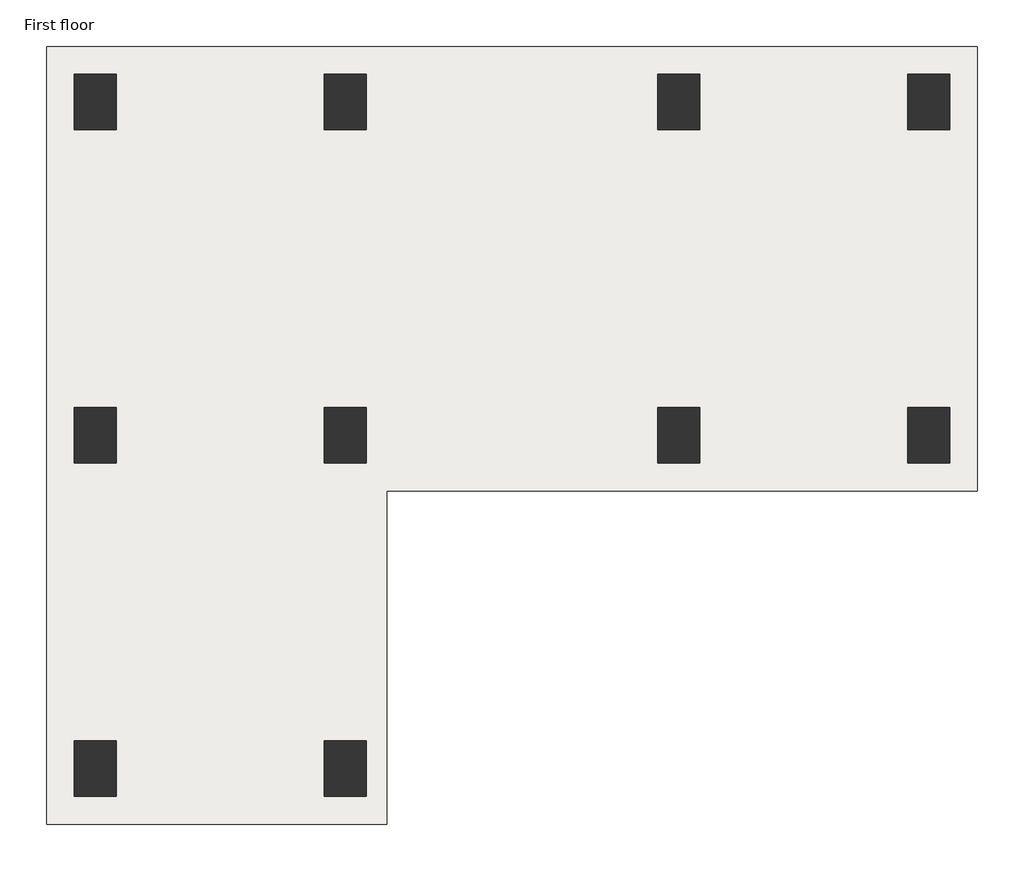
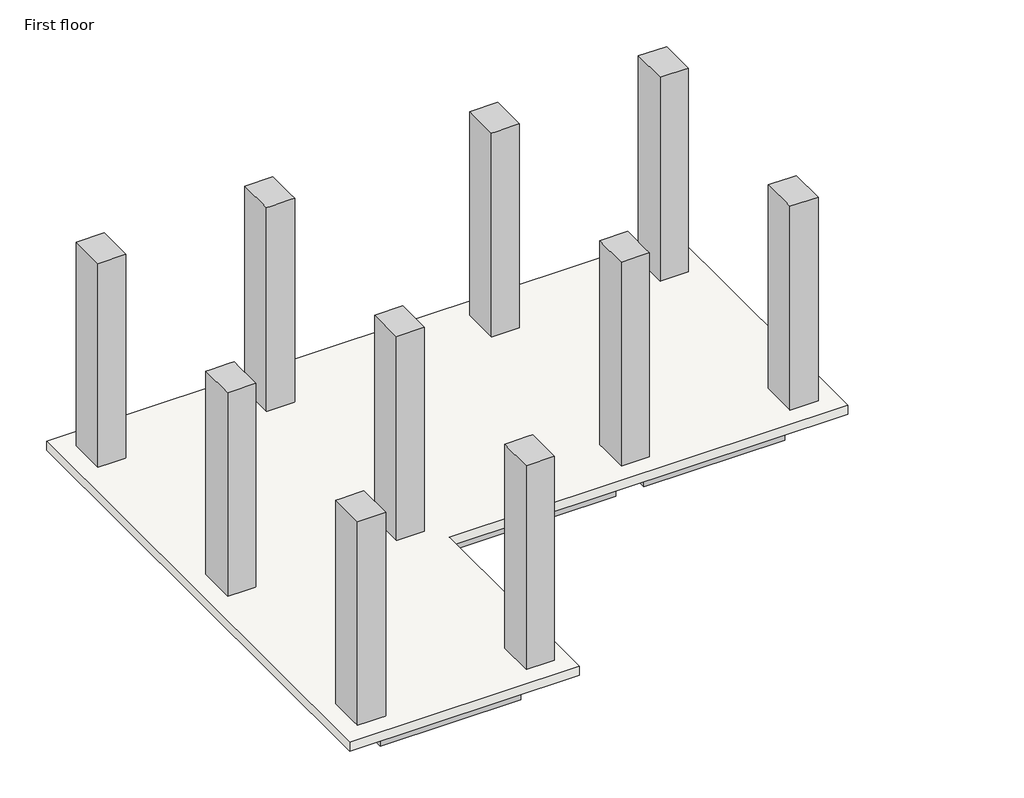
# One storey: 13 beams, 10 columns, 1 slab.
"""IFC4 building model written with IfcOpenShell, lengths in millimetres."""

import ifcopenshell
import ifcopenshell.guid

model = None  # the IFC model being written
_history = None  # IfcOwnerHistory: only IFC2X3 demands one
_inside = {}  # id of a spatial element -> (the spatial element, [elements in it])
_under = {}  # id of a project, library or spatial element -> (it, [spatial elements below it])
_declared = {}  # id of a project -> (the project, [libraries it declares])
_typed = {}  # id of a type object -> (the type object, [elements of that type])
_made_of = {}  # id of a material, layer set ... -> (it, [elements and type objects made of it])


def new_model(schema):
    """Start an empty IFC model of exactly this schema.

    Asked for "IFC4X3", IfcOpenShell would pick the latest addendum, in which some entities
    have other attributes; the version numbers below select the first issue.
    IFC2X3 requires an IfcOwnerHistory on every rooted entity: one is made here for all.
    """
    global model, _history
    if schema == "IFC4X3":
        model = ifcopenshell.file(schema_version=(4, 3, 0, 0))
    else:
        model = ifcopenshell.file(schema=schema)
    _inside.clear()
    _under.clear()
    _declared.clear()
    _typed.clear()
    _made_of.clear()
    _history = None
    if model.schema == "IFC2X3":
        org = make("IfcOrganization", Name="unknown")
        user = make(
            "IfcPersonAndOrganization",
            ThePerson=make("IfcPerson", FamilyName="unknown"),
            TheOrganization=org,
        )
        app = make(
            "IfcApplication",
            ApplicationDeveloper=org,
            Version="unknown",
            ApplicationFullName="unknown",
            ApplicationIdentifier="unknown",
        )
        _history = make(
            "IfcOwnerHistory",
            OwningUser=user,
            OwningApplication=app,
            ChangeAction="ADDED",
            CreationDate=0,
        )
    return model


def make(cls, **values):
    """One entity of the class cls with the attributes given. An attribute that is None is left unset."""
    return model.create_entity(
        cls, **{name: value for name, value in values.items() if value is not None}
    )


def rooted(cls, **values):
    """An entity with a GlobalId (a new one), such as an element, a storey or a relation."""
    return make(cls, GlobalId=ifcopenshell.guid.new(), OwnerHistory=_history, **values)


def si_unit(unit_type, name, prefix=None):
    """IfcSIUnit, for example si_unit("LENGTHUNIT", "METRE", prefix="MILLI")."""
    return make("IfcSIUnit", UnitType=unit_type, Prefix=prefix, Name=name)


def assignment(units):
    """IfcUnitAssignment: the units of a project."""
    return None if units is None else make("IfcUnitAssignment", Units=units)


def point(xyz):
    """IfcCartesianPoint."""
    return None if xyz is None else make("IfcCartesianPoint", Coordinates=xyz)


def direction(xyz):
    """IfcDirection."""
    return None if xyz is None else make("IfcDirection", DirectionRatios=xyz)


def frame(location, z_axis=None, x_axis=None):
    """IfcAxis2Placement3D, a coordinate frame: its origin and axes. An axis left out is left unset."""
    return make(
        "IfcAxis2Placement3D",
        Location=point(location),
        Axis=direction(z_axis),
        RefDirection=direction(x_axis),
    )


def origin():
    """The frame at (0, 0, 0) with its axes left unset."""
    return frame((0.0, 0.0, 0.0))


def place(relative_to, where):
    """IfcLocalPlacement: puts the frame where relative to a parent placement (None: the world)."""
    return make(
        "IfcLocalPlacement", PlacementRelTo=relative_to, RelativePlacement=where
    )


def context(
    kind, dimensions, precision=None, world=None, true_north=None, identifier=None
):
    """IfcGeometricRepresentationContext, for example the 3D "Model" context."""
    return make(
        "IfcGeometricRepresentationContext",
        ContextIdentifier=identifier,
        ContextType=kind,
        CoordinateSpaceDimension=dimensions,
        Precision=precision,
        WorldCoordinateSystem=world,
        TrueNorth=true_north,
    )


def project(units=None, contexts=None):
    """IfcProject with its units and contexts."""
    return rooted(
        "IfcProject",
        Name="project",
        RepresentationContexts=contexts,
        UnitsInContext=assignment(units),
    )


def spatial(cls, under=None, at=None, **own):
    """A site, building, storey or space (cls), placed at a placement, below another one or the project."""
    s = rooted(cls, ObjectPlacement=at, **own)
    if under is not None:
        _under.setdefault(under.id(), (under, []))[1].append(s)
    return s


def polyline(points):
    """IfcPolyline through the points."""
    return make("IfcPolyline", Points=[point(p) for p in points])


def outline(outer, holes=None, kind="AREA"):
    """IfcArbitraryClosedProfileDef: a profile drawn as a closed curve; with holes, ...WithVoids."""
    if holes is None:
        return make("IfcArbitraryClosedProfileDef", ProfileType=kind, OuterCurve=outer)
    return make(
        "IfcArbitraryProfileDefWithVoids",
        ProfileType=kind,
        OuterCurve=outer,
        InnerCurves=holes,
    )


def extrude(swept, where, along, depth):
    """IfcExtrudedAreaSolid: the profile swept, set in the frame where, extruded along a direction by depth."""
    return make(
        "IfcExtrudedAreaSolid",
        SweptArea=swept,
        Position=where,
        ExtrudedDirection=direction(along),
        Depth=depth,
    )


def faces_of(points, faces, orient=None, outer=None):
    """IfcFace entities. A face is a list of loops; a loop is a list of indices into points, from 0.

    orient and outer hold one flag for each loop. By default every Orientation is true, the
    first loop of a face is its IfcFaceOuterBound and the others are IfcFaceBound.
    """
    made = []
    for i, loops in enumerate(faces):
        bounds = []
        for j, loop in enumerate(loops):
            is_outer = j == 0 if outer is None else outer[i][j]
            bounds.append(
                make(
                    "IfcFaceOuterBound" if is_outer else "IfcFaceBound",
                    Bound=make("IfcPolyLoop", Polygon=[points[k] for k in loop]),
                    Orientation=True if orient is None else orient[i][j],
                )
            )
        made.append(make("IfcFace", Bounds=bounds))
    return made


def faceted_brep(points, faces, orient=None, outer=None, voids=None):
    """IfcFacetedBrep: a solid bounded by flat faces; with voids (closed shells), ...WithVoids."""
    shared = [point(p) for p in points]
    hull = make("IfcClosedShell", CfsFaces=faces_of(shared, faces, orient, outer))
    if voids is None:
        return make("IfcFacetedBrep", Outer=hull)
    return make(
        "IfcFacetedBrepWithVoids",
        Outer=hull,
        Voids=[
            make(cls, CfsFaces=faces_of(shared, fs, o, b)) for cls, fs, o, b in voids
        ],
    )


def shape(context_of_items, identifier, shape_type, items):
    """IfcShapeRepresentation: the items that make up one representation, for example the "Body"."""
    return make(
        "IfcShapeRepresentation",
        ContextOfItems=context_of_items,
        RepresentationIdentifier=identifier,
        RepresentationType=shape_type,
        Items=items,
    )


def made_of(thing, what):
    """Note that an element or type object is made of a material, layer set ...; save() writes the relation."""
    if what is not None:
        _made_of.setdefault(what.id(), (what, []))[1].append(thing)
    return thing


def element(
    cls,
    number,
    at=None,
    inside=None,
    cuts=None,
    type_object=None,
    material=None,
    context=None,
    identifier="Body",
    shape_type=None,
    held_by="IfcProductDefinitionShape",
    body=None,
    shapes=None,
    **own,
):
    """One element of the class cls, such as IfcWall. Its Tag is "e" and its number.

    at: its placement. inside: the storey or other place that contains it. cuts: it is an
    opening in that element (IfcRelVoidsElement). A single representation is given by context,
    identifier, shape_type and body (its items); several are given by shapes. held_by: the class
    of the entity that holds the representations. save() writes the other relations.
    """
    e = rooted(cls, Tag="e%d" % number, ObjectPlacement=at, **own)
    if body is not None:
        shapes = [shape(context, identifier, shape_type, body)]
    if shapes is not None:
        e.Representation = make(held_by, Representations=shapes)
    if inside is not None:
        _inside.setdefault(inside.id(), (inside, []))[1].append(e)
    if cuts is not None:
        rooted(
            "IfcRelVoidsElement", RelatingBuildingElement=cuts, RelatedOpeningElement=e
        )
    if type_object is not None:
        _typed.setdefault(type_object.id(), (type_object, []))[1].append(e)
    return made_of(e, material)


def aggregate(whole, parts):
    """IfcRelAggregates: a whole, such as a stair, and the parts it consists of."""
    return rooted("IfcRelAggregates", RelatingObject=whole, RelatedObjects=parts)


def save(model, path):
    """Write the relations noted so far, then the file.

    IfcRelAggregates (storeys below a building ...), IfcRelContainedInSpatialStructure (elements
    in a storey), IfcRelDefinesByType, IfcRelAssociatesMaterial and IfcRelDeclares: one each for
    every whole, place, type object, material and project.
    """
    for whole, parts in _under.values():
        aggregate(whole, parts)
    for where, things in _inside.values():
        rooted(
            "IfcRelContainedInSpatialStructure",
            RelatedElements=things,
            RelatingStructure=where,
        )
    for kind, things in _typed.values():
        rooted("IfcRelDefinesByType", RelatedObjects=things, RelatingType=kind)
    for what, things in _made_of.values():
        rooted("IfcRelAssociatesMaterial", RelatedObjects=things, RelatingMaterial=what)
    for by, libraries in _declared.values():
        rooted("IfcRelDeclares", RelatingContext=by, RelatedDefinitions=libraries)
    model.write(path)


model = new_model("IFC4")

# Units and contexts
model_context = context("Model", 3, world=origin())
ifc_project = project(units=[si_unit("LENGTHUNIT", "METRE", prefix="MILLI")], contexts=[model_context])

# Site, building, storey
site = spatial("IfcSite", under=ifc_project)
building = spatial("IfcBuilding", under=site)
storey = spatial("IfcBuildingStorey", under=building, Name="First floor", Elevation=6096.0)

# Beams
placement = place(None, origin())
element("IfcBeam", 1, ObjectType="Concrete-Rectangular Beam : 12 x 24", at=placement, inside=storey, context=model_context, shape_type="SweptSolid", body=[
    extrude(outline(polyline([(-23084.018666, 8390.6753347), (-23084.018666, 8695.4753347), (-20798.018666, 8695.4753347), (-20798.018666, 8390.6753347), (-23084.018666, 8390.6753347)])), frame((0.0, 0.0, 5486.4), z_axis=(0.0, 0.0, 1.0), x_axis=(1.0, 0.0, 0.0)), (0.0, 0.0, 1.0), 457.2),
])
element("IfcBeam", 2, ObjectType="Concrete-Rectangular Beam : 12 x 24", at=placement, inside=storey, context=model_context, shape_type="SweptSolid", body=[
    extrude(outline(polyline([(-20721.818666, 11895.8753347), (-20417.018666, 11895.8753347), (-20417.018666, 8847.8753347), (-20721.818666, 8847.8753347), (-20721.818666, 11895.8753347)])), frame((0.0, 0.0, 5486.4), z_axis=(0.0, 0.0, 1.0), x_axis=(1.0, 0.0, 0.0)), (0.0, 0.0, 1.0), 457.2),
])
element("IfcBeam", 3, ObjectType="Concrete-Rectangular Beam : 12 x 24", at=placement, inside=storey, context=model_context, shape_type="SweptSolid", body=[
    extrude(outline(polyline([(-23465.018666, 11895.8753347), (-23160.218666, 11895.8753347), (-23160.218666, 8847.8753347), (-23465.018666, 8847.8753347), (-23465.018666, 11895.8753347)])), frame((0.0, 0.0, 5486.4), z_axis=(0.0, 0.0, 1.0), x_axis=(1.0, 0.0, 0.0)), (0.0, 0.0, 1.0), 457.2),
])
element("IfcBeam", 4, ObjectType="Concrete-Rectangular Beam : 12 x 24", at=placement, inside=storey, context=model_context, shape_type="SweptSolid", body=[
    extrude(outline(polyline([(-23465.018666, 15553.4753347), (-23160.218666, 15553.4753347), (-23160.218666, 12505.4753347), (-23465.018666, 12505.4753347), (-23465.018666, 15553.4753347)])), frame((0.0, 0.0, 5486.4), z_axis=(0.0, 0.0, 1.0), x_axis=(1.0, 0.0, 0.0)), (0.0, 0.0, 1.0), 457.2),
])
element("IfcBeam", 5, ObjectType="Concrete-Rectangular Beam : 12 x 24", at=placement, inside=storey, context=model_context, shape_type="SweptSolid", body=[
    extrude(outline(polyline([(-23084.018666, 15705.8753347), (-23084.018666, 16010.6753347), (-20798.018666, 16010.6753347), (-20798.018666, 15705.8753347), (-23084.018666, 15705.8753347)])), frame((0.0, 0.0, 5486.4), z_axis=(0.0, 0.0, 1.0), x_axis=(1.0, 0.0, 0.0)), (0.0, 0.0, 1.0), 457.2),
])
element("IfcBeam", 6, ObjectType="Concrete-Rectangular Beam : 12 x 24", at=placement, inside=storey, context=model_context, shape_type="SweptSolid", body=[
    extrude(outline(polyline([(-20340.818666, 15705.8753347), (-20340.818666, 16010.6753347), (-17140.418666, 16010.6753347), (-17140.418666, 15705.8753347), (-20340.818666, 15705.8753347)])), frame((0.0, 0.0, 5486.4), z_axis=(0.0, 0.0, 1.0), x_axis=(1.0, 0.0, 0.0)), (0.0, 0.0, 1.0), 457.2),
])
element("IfcBeam", 7, ObjectType="Concrete-Rectangular Beam : 12 x 24", at=placement, inside=storey, context=model_context, shape_type="SweptSolid", body=[
    extrude(outline(polyline([(-16683.218666, 15705.8753347), (-16683.218666, 16010.6753347), (-14397.218666, 16010.6753347), (-14397.218666, 15705.8753347), (-16683.218666, 15705.8753347)])), frame((0.0, 0.0, 5486.4), z_axis=(0.0, 0.0, 1.0), x_axis=(1.0, 0.0, 0.0)), (0.0, 0.0, 1.0), 457.2),
])
element("IfcBeam", 8, ObjectType="Concrete-Rectangular Beam : 12 x 24", at=placement, inside=storey, context=model_context, shape_type="SweptSolid", body=[
    extrude(outline(polyline([(-14321.018666, 15553.4753347), (-14016.218666, 15553.4753347), (-14016.218666, 12505.4753347), (-14321.018666, 12505.4753347), (-14321.018666, 15553.4753347)])), frame((0.0, 0.0, 5486.4), z_axis=(0.0, 0.0, 1.0), x_axis=(1.0, 0.0, 0.0)), (0.0, 0.0, 1.0), 457.2),
])
element("IfcBeam", 9, ObjectType="Concrete-Rectangular Beam : 12 x 24", at=placement, inside=storey, context=model_context, shape_type="SweptSolid", body=[
    extrude(outline(polyline([(-16683.218666, 12048.2753347), (-16683.218666, 12353.0753347), (-14397.218666, 12353.0753347), (-14397.218666, 12048.2753347), (-16683.218666, 12048.2753347)])), frame((0.0, 0.0, 5486.4), z_axis=(0.0, 0.0, 1.0), x_axis=(1.0, 0.0, 0.0)), (0.0, 0.0, 1.0), 457.2),
])
element("IfcBeam", 10, ObjectType="Concrete-Rectangular Beam : 12 x 24", at=placement, inside=storey, context=model_context, shape_type="SweptSolid", body=[
    extrude(outline(polyline([(-20340.818666, 12048.2753347), (-20340.818666, 12353.0753347), (-17140.418666, 12353.0753347), (-17140.418666, 12048.2753347), (-20340.818666, 12048.2753347)])), frame((0.0, 0.0, 5486.4), z_axis=(0.0, 0.0, 1.0), x_axis=(1.0, 0.0, 0.0)), (0.0, 0.0, 1.0), 457.2),
])
element("IfcBeam", 11, ObjectType="Concrete-Rectangular Beam : 12 x 24", at=placement, inside=storey, context=model_context, shape_type="SweptSolid", body=[
    extrude(outline(polyline([(-23084.018666, 12048.2753347), (-23084.018666, 12353.0753347), (-20798.018666, 12353.0753347), (-20798.018666, 12048.2753347), (-23084.018666, 12048.2753347)])), frame((0.0, 0.0, 5486.4), z_axis=(0.0, 0.0, 1.0), x_axis=(1.0, 0.0, 0.0)), (0.0, 0.0, 1.0), 457.2),
])
element("IfcBeam", 12, ObjectType="Concrete-Rectangular Beam : 12 x 24", at=placement, inside=storey, context=model_context, shape_type="SweptSolid", body=[
    extrude(outline(polyline([(-20721.818666, 15553.4753347), (-20417.018666, 15553.4753347), (-20417.018666, 12505.4753347), (-20721.818666, 12505.4753347), (-20721.818666, 15553.4753347)])), frame((0.0, 0.0, 5486.4), z_axis=(0.0, 0.0, 1.0), x_axis=(1.0, 0.0, 0.0)), (0.0, 0.0, 1.0), 457.2),
])
element("IfcBeam", 13, ObjectType="Concrete-Rectangular Beam : 12 x 24", at=placement, inside=storey, context=model_context, shape_type="SweptSolid", body=[
    extrude(outline(polyline([(-17064.218666, 15553.4753347), (-16759.418666, 15553.4753347), (-16759.418666, 12505.4753347), (-17064.218666, 12505.4753347), (-17064.218666, 15553.4753347)])), frame((0.0, 0.0, 5486.4), z_axis=(0.0, 0.0, 1.0), x_axis=(1.0, 0.0, 0.0)), (0.0, 0.0, 1.0), 457.2),
])

# Columns
element("IfcColumn", 14, ObjectType="Concrete-Rectangular-Column : 18 x 24", at=placement, inside=storey, context=model_context, shape_type="Brep", body=[
    faceted_brep([(-23084.018666, 16163.0753347, 6096.0), (-23084.018666, 15553.4753347, 6096.0), (-23541.218666, 15553.4753347, 6096.0), (-23541.218666, 16163.0753347, 6096.0), (-23084.018666, 16163.0753347, 9601.2), (-23084.018666, 16010.6753347, 9601.2), (-23084.018666, 15705.8753347, 9601.2), (-23084.018666, 15553.4753347, 9601.2), (-23160.218666, 15553.4753347, 9601.2), (-23465.018666, 15553.4753347, 9601.2), (-23541.218666, 15553.4753347, 9601.2), (-23541.218666, 16163.0753347, 9601.2)], [[[0, 1, 2, 3]], [[1, 0, 4, 5, 6, 7]], [[2, 1, 7, 8, 9, 10]], [[3, 2, 10, 11]], [[0, 3, 11, 4]], [[7, 6, 5, 4, 11, 10, 9, 8]]]),
])
element("IfcColumn", 15, ObjectType="Concrete-Rectangular-Column : 18 x 24", at=placement, inside=storey, context=model_context, shape_type="Brep", body=[
    faceted_brep([(-20340.818666, 16163.0753347, 6096.0), (-20340.818666, 15553.4753347, 6096.0), (-20798.018666, 15553.4753347, 6096.0), (-20798.018666, 16163.0753347, 6096.0), (-20340.818666, 16163.0753347, 9601.2), (-20340.818666, 16010.6753347, 9601.2), (-20340.818666, 15705.8753347, 9601.2), (-20340.818666, 15553.4753347, 9601.2), (-20417.018666, 15553.4753347, 9601.2), (-20721.818666, 15553.4753347, 9601.2), (-20798.018666, 15553.4753347, 9601.2), (-20798.018666, 15705.8753347, 9601.2), (-20798.018666, 16010.6753347, 9601.2), (-20798.018666, 16163.0753347, 9601.2)], [[[0, 1, 2, 3]], [[1, 0, 4, 5, 6, 7]], [[2, 1, 7, 8, 9, 10]], [[3, 2, 10, 11, 12, 13]], [[0, 3, 13, 4]], [[7, 6, 5, 4, 13, 12, 11, 10, 9, 8]]]),
])
element("IfcColumn", 16, ObjectType="Concrete-Rectangular-Column : 18 x 24", at=placement, inside=storey, context=model_context, shape_type="Brep", body=[
    faceted_brep([(-16683.218666, 16163.0753347, 6096.0), (-16683.218666, 15553.4753347, 6096.0), (-17140.418666, 15553.4753347, 6096.0), (-17140.418666, 16163.0753347, 6096.0), (-16683.218666, 16163.0753347, 9601.2), (-16683.218666, 16010.6753347, 9601.2), (-16683.218666, 15705.8753347, 9601.2), (-16683.218666, 15553.4753347, 9601.2), (-16759.418666, 15553.4753347, 9601.2), (-17064.218666, 15553.4753347, 9601.2), (-17140.418666, 15553.4753347, 9601.2), (-17140.418666, 15705.8753347, 9601.2), (-17140.418666, 16010.6753347, 9601.2), (-17140.418666, 16163.0753347, 9601.2)], [[[0, 1, 2, 3]], [[1, 0, 4, 5, 6, 7]], [[2, 1, 7, 8, 9, 10]], [[3, 2, 10, 11, 12, 13]], [[0, 3, 13, 4]], [[7, 6, 5, 4, 13, 12, 11, 10, 9, 8]]]),
])
element("IfcColumn", 17, ObjectType="Concrete-Rectangular-Column : 18 x 24", at=placement, inside=storey, context=model_context, shape_type="Brep", body=[
    faceted_brep([(-13940.018666, 16163.0753347, 6096.0), (-13940.018666, 15553.4753347, 6096.0), (-14397.218666, 15553.4753347, 6096.0), (-14397.218666, 16163.0753347, 6096.0), (-13940.018666, 16163.0753347, 9601.2), (-13940.018666, 15553.4753347, 9601.2), (-14016.218666, 15553.4753347, 9601.2), (-14321.018666, 15553.4753347, 9601.2), (-14397.218666, 15553.4753347, 9601.2), (-14397.218666, 15705.8753347, 9601.2), (-14397.218666, 16010.6753347, 9601.2), (-14397.218666, 16163.0753347, 9601.2)], [[[0, 1, 2, 3]], [[1, 0, 4, 5]], [[2, 1, 5, 6, 7, 8]], [[3, 2, 8, 9, 10, 11]], [[0, 3, 11, 4]], [[5, 4, 11, 10, 9, 8, 7, 6]]]),
])
element("IfcColumn", 18, ObjectType="Concrete-Rectangular-Column : 18 x 24", at=placement, inside=storey, context=model_context, shape_type="Brep", body=[
    faceted_brep([(-23084.018666, 12505.4753347, 6096.0), (-23084.018666, 11895.8753347, 6096.0), (-23541.218666, 11895.8753347, 6096.0), (-23541.218666, 12505.4753347, 6096.0), (-23084.018666, 12505.4753347, 9601.2), (-23084.018666, 12353.0753347, 9601.2), (-23084.018666, 12048.2753347, 9601.2), (-23084.018666, 11895.8753347, 9601.2), (-23160.218666, 11895.8753347, 9601.2), (-23465.018666, 11895.8753347, 9601.2), (-23541.218666, 11895.8753347, 9601.2), (-23541.218666, 12505.4753347, 9601.2), (-23465.018666, 12505.4753347, 9601.2), (-23160.218666, 12505.4753347, 9601.2)], [[[0, 1, 2, 3]], [[1, 0, 4, 5, 6, 7]], [[2, 1, 7, 8, 9, 10]], [[3, 2, 10, 11]], [[0, 3, 11, 12, 13, 4]], [[7, 6, 5, 4, 13, 12, 11, 10, 9, 8]]]),
])
element("IfcColumn", 19, ObjectType="Concrete-Rectangular-Column : 18 x 24", at=placement, inside=storey, context=model_context, shape_type="Brep", body=[
    faceted_brep([(-20340.818666, 12505.4753347, 6096.0), (-20340.818666, 11895.8753347, 6096.0), (-20798.018666, 11895.8753347, 6096.0), (-20798.018666, 12505.4753347, 6096.0), (-20340.818666, 12505.4753347, 9601.2), (-20340.818666, 12353.0753347, 9601.2), (-20340.818666, 12048.2753347, 9601.2), (-20340.818666, 11895.8753347, 9601.2), (-20417.018666, 11895.8753347, 9601.2), (-20721.818666, 11895.8753347, 9601.2), (-20798.018666, 11895.8753347, 9601.2), (-20798.018666, 12048.2753347, 9601.2), (-20798.018666, 12353.0753347, 9601.2), (-20798.018666, 12505.4753347, 9601.2), (-20721.818666, 12505.4753347, 9601.2), (-20417.018666, 12505.4753347, 9601.2)], [[[0, 1, 2, 3]], [[1, 0, 4, 5, 6, 7]], [[2, 1, 7, 8, 9, 10]], [[3, 2, 10, 11, 12, 13]], [[0, 3, 13, 14, 15, 4]], [[7, 6, 5, 4, 15, 14, 13, 12, 11, 10, 9, 8]]]),
])
element("IfcColumn", 20, ObjectType="Concrete-Rectangular-Column : 18 x 24", at=placement, inside=storey, context=model_context, shape_type="Brep", body=[
    faceted_brep([(-16683.218666, 12505.4753347, 6096.0), (-16683.218666, 11895.8753347, 6096.0), (-17140.418666, 11895.8753347, 6096.0), (-17140.418666, 12505.4753347, 6096.0), (-16683.218666, 12505.4753347, 9601.2), (-16683.218666, 12353.0753347, 9601.2), (-16683.218666, 12048.2753347, 9601.2), (-16683.218666, 11895.8753347, 9601.2), (-17140.418666, 11895.8753347, 9601.2), (-17140.418666, 12048.2753347, 9601.2), (-17140.418666, 12353.0753347, 9601.2), (-17140.418666, 12505.4753347, 9601.2), (-17064.218666, 12505.4753347, 9601.2), (-16759.418666, 12505.4753347, 9601.2)], [[[0, 1, 2, 3]], [[1, 0, 4, 5, 6, 7]], [[2, 1, 7, 8]], [[3, 2, 8, 9, 10, 11]], [[0, 3, 11, 12, 13, 4]], [[7, 6, 5, 4, 13, 12, 11, 10, 9, 8]]]),
])
element("IfcColumn", 21, ObjectType="Concrete-Rectangular-Column : 18 x 24", at=placement, inside=storey, context=model_context, shape_type="Brep", body=[
    faceted_brep([(-13940.018666, 12505.4753347, 6096.0), (-13940.018666, 11895.8753347, 6096.0), (-14397.218666, 11895.8753347, 6096.0), (-14397.218666, 12505.4753347, 6096.0), (-13940.018666, 12505.4753347, 9601.2), (-13940.018666, 11895.8753347, 9601.2), (-14397.218666, 11895.8753347, 9601.2), (-14397.218666, 12048.2753347, 9601.2), (-14397.218666, 12353.0753347, 9601.2), (-14397.218666, 12505.4753347, 9601.2), (-14321.018666, 12505.4753347, 9601.2), (-14016.218666, 12505.4753347, 9601.2)], [[[0, 1, 2, 3]], [[1, 0, 4, 5]], [[2, 1, 5, 6]], [[3, 2, 6, 7, 8, 9]], [[0, 3, 9, 10, 11, 4]], [[5, 4, 11, 10, 9, 8, 7, 6]]]),
])
element("IfcColumn", 22, ObjectType="Concrete-Rectangular-Column : 18 x 24", at=placement, inside=storey, context=model_context, shape_type="Brep", body=[
    faceted_brep([(-23084.018666, 8847.8753347, 6096.0), (-23084.018666, 8238.2753347, 6096.0), (-23541.218666, 8238.2753347, 6096.0), (-23541.218666, 8847.8753347, 6096.0), (-23084.018666, 8847.8753347, 9601.2), (-23084.018666, 8695.4753347, 9601.2), (-23084.018666, 8390.6753347, 9601.2), (-23084.018666, 8238.2753347, 9601.2), (-23541.218666, 8238.2753347, 9601.2), (-23541.218666, 8847.8753347, 9601.2), (-23465.018666, 8847.8753347, 9601.2), (-23160.218666, 8847.8753347, 9601.2)], [[[0, 1, 2, 3]], [[1, 0, 4, 5, 6, 7]], [[2, 1, 7, 8]], [[3, 2, 8, 9]], [[0, 3, 9, 10, 11, 4]], [[7, 6, 5, 4, 11, 10, 9, 8]]]),
])
element("IfcColumn", 23, ObjectType="Concrete-Rectangular-Column : 18 x 24", at=placement, inside=storey, context=model_context, shape_type="Brep", body=[
    faceted_brep([(-20340.818666, 8847.8753347, 6096.0), (-20340.818666, 8238.2753347, 6096.0), (-20798.018666, 8238.2753347, 6096.0), (-20798.018666, 8847.8753347, 6096.0), (-20340.818666, 8847.8753347, 9601.2), (-20340.818666, 8238.2753347, 9601.2), (-20798.018666, 8238.2753347, 9601.2), (-20798.018666, 8390.6753347, 9601.2), (-20798.018666, 8695.4753347, 9601.2), (-20798.018666, 8847.8753347, 9601.2), (-20721.818666, 8847.8753347, 9601.2), (-20417.018666, 8847.8753347, 9601.2)], [[[0, 1, 2, 3]], [[1, 0, 4, 5]], [[2, 1, 5, 6]], [[3, 2, 6, 7, 8, 9]], [[0, 3, 9, 10, 11, 4]], [[5, 4, 11, 10, 9, 8, 7, 6]]]),
])

# Slab
element("IfcSlab", 24, ObjectType="6\" Concrete", at=placement, inside=storey, context=model_context, shape_type="SweptSolid", body=[
    extrude(outline(polyline([(-23846.018666, 7933.4753347), (-23846.018666, 16467.8753347), (-13635.218666, 16467.8753347), (-13635.218666, 11591.0753347), (-20112.218666, 11591.0753347), (-20112.218666, 7933.4753347), (-23846.018666, 7933.4753347)])), frame((0.0, 0.0, 5943.6), z_axis=(0.0, 0.0, 1.0), x_axis=(1.0, 0.0, 0.0)), (0.0, 0.0, 1.0), 152.4),
])

save(model, "model.ifc")
